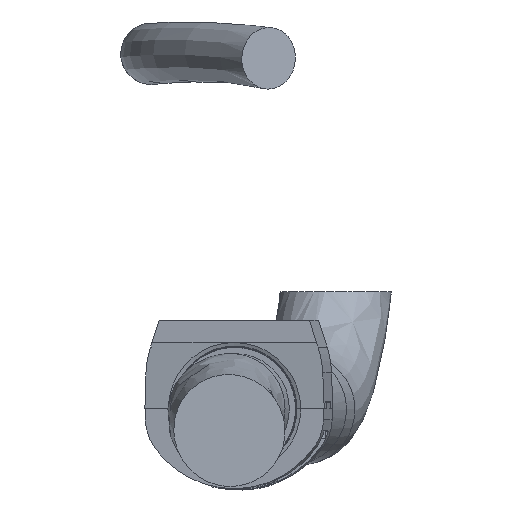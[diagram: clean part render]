
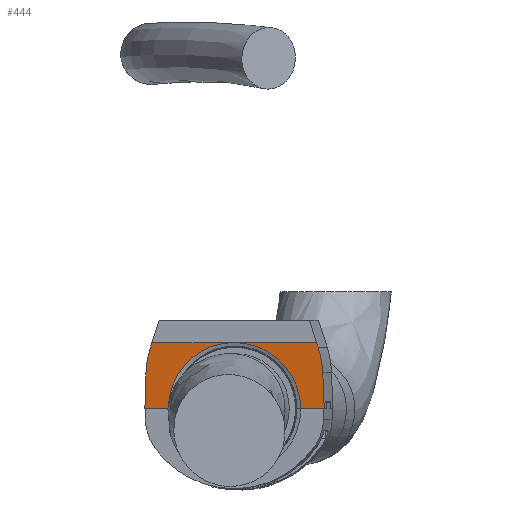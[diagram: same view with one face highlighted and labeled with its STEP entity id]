
A CAD part, top view. The second image highlights one B-rep face of the part: STEP entity #444.
In plain terms, the highlighted planar face has unit normal (-0.167, -0.035, 0.985).
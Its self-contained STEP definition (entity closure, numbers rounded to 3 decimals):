
#6 = LINE ( 'NONE', #4529, #467 ) ;
#132 = ORIENTED_EDGE ( 'NONE', *, *, #18522, .T. ) ;
#326 = VERTEX_POINT ( 'NONE', #15863 ) ;
#422 = VERTEX_POINT ( 'NONE', #2357 ) ;
#444 = ADVANCED_FACE ( 'NONE', ( #10126 ), #10031, .F. ) ;
#467 = VECTOR ( 'NONE', #7786, 1000. ) ;
#561 =( BOUNDED_CURVE ( )  B_SPLINE_CURVE ( 3, ( #16031, #5296, #2022, #11504 ),
 .UNSPECIFIED., .F., .F. ) 
 B_SPLINE_CURVE_WITH_KNOTS ( ( 4, 4 ),
 ( 4.747, 5.032 ),
 .UNSPECIFIED. ) 
 CURVE ( )  GEOMETRIC_REPRESENTATION_ITEM ( )  RATIONAL_B_SPLINE_CURVE ( ( 1., 0.993, 0.993, 1. ) ) 
 REPRESENTATION_ITEM ( '' )  );
#582 = LINE ( 'NONE', #6838, #13029 ) ;
#715 = CARTESIAN_POINT ( 'NONE',  ( 408.333, -290., 2032.457 ) ) ;
#1117 = EDGE_CURVE ( 'NONE', #326, #8625, #17650, .T. ) ;
#1533 = ORIENTED_EDGE ( 'NONE', *, *, #4129, .F. ) ;
#1901 = ORIENTED_EDGE ( 'NONE', *, *, #5589, .F. ) ;
#2022 = CARTESIAN_POINT ( 'NONE',  ( 424.565, -246.571, 2036.741 ) ) ;
#2281 = ORIENTED_EDGE ( 'NONE', *, *, #6141, .T. ) ;
#2317 = AXIS2_PLACEMENT_3D ( 'NONE', #8584, #19238, #8286 ) ;
#2357 = CARTESIAN_POINT ( 'NONE',  ( 287.025, -236., 2013.852 ) ) ;
#3187 = ORIENTED_EDGE ( 'NONE', *, *, #17751, .T. ) ;
#3421 = DIRECTION ( 'NONE',  ( -0.986, 0., -0.167 ) ) ;
#3869 =( BOUNDED_CURVE ( )  B_SPLINE_CURVE ( 3, ( #16650, #6948, #8574, #13476 ),
 .UNSPECIFIED., .F., .F. ) 
 B_SPLINE_CURVE_WITH_KNOTS ( ( 4, 4 ),
 ( 1.251, 1.536 ),
 .UNSPECIFIED. ) 
 CURVE ( )  GEOMETRIC_REPRESENTATION_ITEM ( )  RATIONAL_B_SPLINE_CURVE ( ( 1., 0.993, 0.993, 1. ) ) 
 REPRESENTATION_ITEM ( '' )  );
#4079 = CARTESIAN_POINT ( 'NONE',  ( 421.05, -236., 2036.521 ) ) ;
#4129 = EDGE_CURVE ( 'NONE', #8625, #7905, #6, .T. ) ;
#4225 = ORIENTED_EDGE ( 'NONE', *, *, #12575, .T. ) ;
#4366 = ORIENTED_EDGE ( 'NONE', *, *, #12212, .T. ) ;
#4494 = VECTOR ( 'NONE', #14383, 1000. ) ;
#4525 = CARTESIAN_POINT ( 'NONE',  ( 285.811, -239.784, 2013.513 ) ) ;
#4529 = CARTESIAN_POINT ( 'NONE',  ( 282.181, -262.294, 2012.102 ) ) ;
#4757 = VERTEX_POINT ( 'NONE', #4079 ) ;
#5292 = LINE ( 'NONE', #14884, #20154 ) ;
#5296 = CARTESIAN_POINT ( 'NONE',  ( 425.851, -253.61, 2036.709 ) ) ;
#5589 = EDGE_CURVE ( 'NONE', #15250, #10167, #16452, .T. ) ;
#5798 = CARTESIAN_POINT ( 'NONE',  ( 426.139, -260.756, 2036.505 ) ) ;
#6141 = EDGE_CURVE ( 'NONE', #326, #10167, #18168, .T. ) ;
#6312 = LINE ( 'NONE', #8151, #4494 ) ;
#6654 = VECTOR ( 'NONE', #3421, 1000. ) ;
#6838 = CARTESIAN_POINT ( 'NONE',  ( 427.259, -288.591, 2035.708 ) ) ;
#6948 = CARTESIAN_POINT ( 'NONE',  ( 283.633, -246.571, 2012.904 ) ) ;
#7021 = VECTOR ( 'NONE', #13288, 1000. ) ;
#7426 = DIRECTION ( 'NONE',  ( -0.04, 0.999, 0.029 ) ) ;
#7786 = DIRECTION ( 'NONE',  ( 0.029, 0.999, 0.04 ) ) ;
#7905 = VERTEX_POINT ( 'NONE', #8276 ) ;
#8151 = CARTESIAN_POINT ( 'NONE',  ( 421.971, -238.768, 2036.578 ) ) ;
#8276 = CARTESIAN_POINT ( 'NONE',  ( 282.225, -260.756, 2012.163 ) ) ;
#8286 = DIRECTION ( 'NONE',  ( -0.006, 0.999, 0.034 ) ) ;
#8489 = VERTEX_POINT ( 'NONE', #4525 ) ;
#8574 = CARTESIAN_POINT ( 'NONE',  ( 282.429, -253.61, 2012.451 ) ) ;
#8584 = CARTESIAN_POINT ( 'NONE',  ( 255.78, -294.658, 2006.49 ) ) ;
#8625 = VERTEX_POINT ( 'NONE', #11537 ) ;
#9754 = EDGE_CURVE ( 'NONE', #422, #4757, #15972, .T. ) ;
#9935 = DIRECTION ( 'NONE',  ( 0.986, 0., 0.167 ) ) ;
#10031 = PLANE ( 'NONE',  #2317 ) ;
#10126 = FACE_OUTER_BOUND ( 'NONE', #15567, .T. ) ;
#10167 = VERTEX_POINT ( 'NONE', #715 ) ;
#10888 = ORIENTED_EDGE ( 'NONE', *, *, #10955, .T. ) ;
#10955 = EDGE_CURVE ( 'NONE', #8489, #7905, #3869, .T. ) ;
#11500 = DIRECTION ( 'NONE',  ( -0.304, -0.949, -0.085 ) ) ;
#11504 = CARTESIAN_POINT ( 'NONE',  ( 422.308, -239.784, 2036.6 ) ) ;
#11537 = CARTESIAN_POINT ( 'NONE',  ( 281.388, -290., 2010.986 ) ) ;
#11930 = CARTESIAN_POINT ( 'NONE',  ( 354.356, -290.719, 2023.302 ) ) ;
#12071 = CARTESIAN_POINT ( 'NONE',  ( 427.316, -290., 2035.668 ) ) ;
#12212 = EDGE_CURVE ( 'NONE', #15067, #4757, #6312, .T. ) ;
#12392 = ORIENTED_EDGE ( 'NONE', *, *, #1117, .F. ) ;
#12575 = EDGE_CURVE ( 'NONE', #422, #8489, #5292, .T. ) ;
#12995 = CARTESIAN_POINT ( 'NONE',  ( 255.438, -236., 2008.51 ) ) ;
#13029 = VECTOR ( 'NONE', #7426, 1000. ) ;
#13288 = DIRECTION ( 'NONE',  ( -0.986, 0., -0.167 ) ) ;
#13476 = CARTESIAN_POINT ( 'NONE',  ( 282.225, -260.756, 2012.163 ) ) ;
#13674 = DIRECTION ( 'NONE',  ( -0.006, 0.999, 0.034 ) ) ;
#14383 = DIRECTION ( 'NONE',  ( -0.315, 0.949, -0.02 ) ) ;
#14536 = VECTOR ( 'NONE', #9935, 1000. ) ;
#14867 = AXIS2_PLACEMENT_3D ( 'NONE', #11930, #15318, #13674 ) ;
#14884 = CARTESIAN_POINT ( 'NONE',  ( 266.997, -298.416, 2008.254 ) ) ;
#15067 = VERTEX_POINT ( 'NONE', #17097 ) ;
#15250 = VERTEX_POINT ( 'NONE', #12071 ) ;
#15318 = DIRECTION ( 'NONE',  ( 0.167, 0.035, -0.985 ) ) ;
#15567 = EDGE_LOOP ( 'NONE', ( #3187, #4366, #16584, #4225, #10888, #1533, #12392, #2281, #1901, #132 ) ) ;
#15705 = VERTEX_POINT ( 'NONE', #5798 ) ;
#15789 = CARTESIAN_POINT ( 'NONE',  ( 281.388, -290., 2010.986 ) ) ;
#15863 = CARTESIAN_POINT ( 'NONE',  ( 300.371, -290., 2014.197 ) ) ;
#15972 = LINE ( 'NONE', #12995, #14536 ) ;
#16031 = CARTESIAN_POINT ( 'NONE',  ( 426.139, -260.756, 2036.505 ) ) ;
#16259 = CARTESIAN_POINT ( 'NONE',  ( 281.388, -290., 2010.986 ) ) ;
#16452 = LINE ( 'NONE', #16259, #7021 ) ;
#16584 = ORIENTED_EDGE ( 'NONE', *, *, #9754, .F. ) ;
#16650 = CARTESIAN_POINT ( 'NONE',  ( 285.811, -239.784, 2013.513 ) ) ;
#17097 = CARTESIAN_POINT ( 'NONE',  ( 422.308, -239.784, 2036.6 ) ) ;
#17650 = LINE ( 'NONE', #15789, #6654 ) ;
#17751 = EDGE_CURVE ( 'NONE', #15705, #15067, #561, .T. ) ;
#18168 = CIRCLE ( 'NONE', #14867, 54.752 ) ;
#18522 = EDGE_CURVE ( 'NONE', #15250, #15705, #582, .T. ) ;
#19238 = DIRECTION ( 'NONE',  ( 0.167, 0.035, -0.985 ) ) ;
#20154 = VECTOR ( 'NONE', #11500, 1000. ) ;
